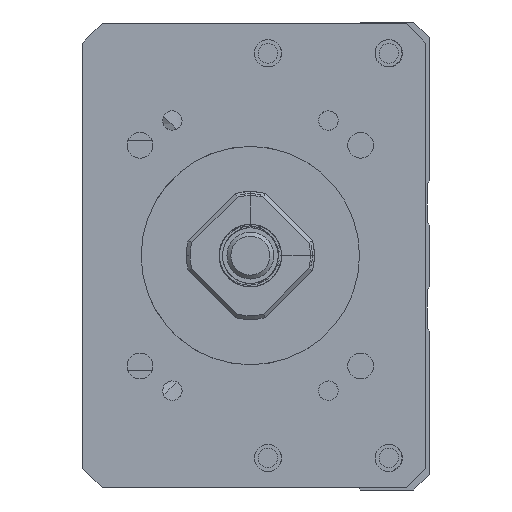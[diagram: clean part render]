
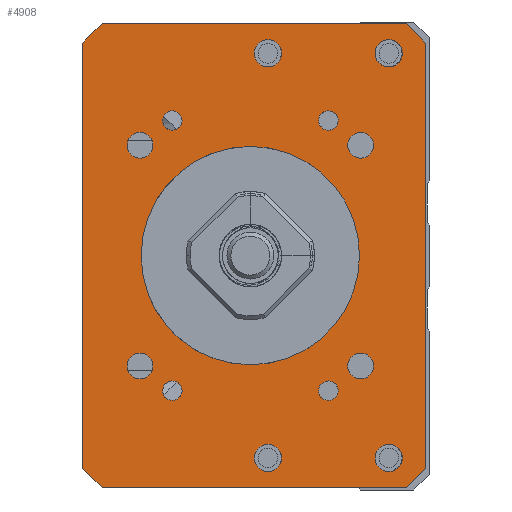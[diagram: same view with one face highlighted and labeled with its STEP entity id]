
A CAD part, left-side view. The second image highlights one B-rep face of the part: STEP entity #4908.
In plain terms, the highlighted planar face has unit normal (-1, 0, 0).
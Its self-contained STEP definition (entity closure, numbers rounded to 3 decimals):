
#3601=FACE_BOUND('',#6230,.T.);
#3602=FACE_BOUND('',#6231,.T.);
#3603=FACE_BOUND('',#6232,.T.);
#3604=FACE_BOUND('',#6233,.T.);
#3605=FACE_BOUND('',#6234,.T.);
#3606=FACE_BOUND('',#6235,.T.);
#3607=FACE_BOUND('',#6236,.T.);
#3608=FACE_BOUND('',#6237,.T.);
#3609=FACE_BOUND('',#6238,.T.);
#3610=FACE_BOUND('',#6239,.T.);
#3611=FACE_BOUND('',#6240,.T.);
#3612=FACE_BOUND('',#6241,.T.);
#3613=FACE_BOUND('',#6242,.T.);
#3614=FACE_BOUND('',#6243,.T.);
#4060=CIRCLE('',#14267,14.);
#4069=CIRCLE('',#14278,1.65);
#4070=CIRCLE('',#14279,1.65);
#4071=CIRCLE('',#14280,1.65);
#4072=CIRCLE('',#14281,1.65);
#4073=CIRCLE('',#14282,1.25);
#4074=CIRCLE('',#14283,1.75);
#4075=CIRCLE('',#14284,1.25);
#4076=CIRCLE('',#14285,1.75);
#4077=CIRCLE('',#14286,1.25);
#4078=CIRCLE('',#14287,1.75);
#4079=CIRCLE('',#14288,1.75);
#4080=CIRCLE('',#14289,1.25);
#4396=PLANE('',#14290);
#4908=ADVANCED_FACE('',(#3601,#3602,#3603,#3604,#3605,#3606,#3607,#3608,
#3609,#3610,#3611,#3612,#3613,#3614),#4396,.F.);
#6230=EDGE_LOOP('',(#7692));
#6231=EDGE_LOOP('',(#7693));
#6232=EDGE_LOOP('',(#7694));
#6233=EDGE_LOOP('',(#7695));
#6234=EDGE_LOOP('',(#7696));
#6235=EDGE_LOOP('',(#7697));
#6236=EDGE_LOOP('',(#7698));
#6237=EDGE_LOOP('',(#7699));
#6238=EDGE_LOOP('',(#7700));
#6239=EDGE_LOOP('',(#7701,#7702,#7703,#7704,#7705,#7706,#7707,#7708));
#6240=EDGE_LOOP('',(#7709));
#6241=EDGE_LOOP('',(#7710));
#6242=EDGE_LOOP('',(#7711));
#6243=EDGE_LOOP('',(#7712));
#7692=ORIENTED_EDGE('',*,*,#11242,.F.);
#7693=ORIENTED_EDGE('',*,*,#11243,.F.);
#7694=ORIENTED_EDGE('',*,*,#11244,.F.);
#7695=ORIENTED_EDGE('',*,*,#11245,.F.);
#7696=ORIENTED_EDGE('',*,*,#11246,.F.);
#7697=ORIENTED_EDGE('',*,*,#11247,.T.);
#7698=ORIENTED_EDGE('',*,*,#11248,.F.);
#7699=ORIENTED_EDGE('',*,*,#11249,.F.);
#7700=ORIENTED_EDGE('',*,*,#11250,.F.);
#7701=ORIENTED_EDGE('',*,*,#11239,.T.);
#7702=ORIENTED_EDGE('',*,*,#11251,.T.);
#7703=ORIENTED_EDGE('',*,*,#11252,.F.);
#7704=ORIENTED_EDGE('',*,*,#11253,.T.);
#7705=ORIENTED_EDGE('',*,*,#11254,.F.);
#7706=ORIENTED_EDGE('',*,*,#11255,.T.);
#7707=ORIENTED_EDGE('',*,*,#11256,.T.);
#7708=ORIENTED_EDGE('',*,*,#11257,.T.);
#7709=ORIENTED_EDGE('',*,*,#11258,.F.);
#7710=ORIENTED_EDGE('',*,*,#11259,.F.);
#7711=ORIENTED_EDGE('',*,*,#11260,.F.);
#7712=ORIENTED_EDGE('',*,*,#11219,.F.);
#10136=VERTEX_POINT('',#18745);
#10156=VERTEX_POINT('',#18805);
#10157=VERTEX_POINT('',#18807);
#10159=VERTEX_POINT('',#18813);
#10160=VERTEX_POINT('',#18815);
#10161=VERTEX_POINT('',#18817);
#10162=VERTEX_POINT('',#18819);
#10163=VERTEX_POINT('',#18821);
#10164=VERTEX_POINT('',#18823);
#10165=VERTEX_POINT('',#18825);
#10166=VERTEX_POINT('',#18827);
#10167=VERTEX_POINT('',#18829);
#10168=VERTEX_POINT('',#18831);
#10169=VERTEX_POINT('',#18833);
#10170=VERTEX_POINT('',#18835);
#10171=VERTEX_POINT('',#18837);
#10172=VERTEX_POINT('',#18839);
#10173=VERTEX_POINT('',#18841);
#10174=VERTEX_POINT('',#18844);
#10175=VERTEX_POINT('',#18846);
#10176=VERTEX_POINT('',#18848);
#11219=EDGE_CURVE('',#10136,#10136,#4060,.T.);
#11239=EDGE_CURVE('',#10157,#10156,#12490,.T.);
#11242=EDGE_CURVE('',#10159,#10159,#4069,.T.);
#11243=EDGE_CURVE('',#10160,#10160,#4070,.T.);
#11244=EDGE_CURVE('',#10161,#10161,#4071,.T.);
#11245=EDGE_CURVE('',#10162,#10162,#4072,.T.);
#11246=EDGE_CURVE('',#10163,#10163,#4073,.T.);
#11247=EDGE_CURVE('',#10164,#10164,#4074,.T.);
#11248=EDGE_CURVE('',#10165,#10165,#4075,.T.);
#11249=EDGE_CURVE('',#10166,#10166,#4076,.T.);
#11250=EDGE_CURVE('',#10167,#10167,#4077,.T.);
#11251=EDGE_CURVE('',#10156,#10168,#12492,.T.);
#11252=EDGE_CURVE('',#10169,#10168,#12493,.T.);
#11253=EDGE_CURVE('',#10169,#10170,#12494,.T.);
#11254=EDGE_CURVE('',#10171,#10170,#12495,.T.);
#11255=EDGE_CURVE('',#10171,#10172,#12496,.T.);
#11256=EDGE_CURVE('',#10172,#10173,#12497,.T.);
#11257=EDGE_CURVE('',#10173,#10157,#12498,.T.);
#11258=EDGE_CURVE('',#10174,#10174,#4078,.T.);
#11259=EDGE_CURVE('',#10175,#10175,#4079,.T.);
#11260=EDGE_CURVE('',#10176,#10176,#4080,.T.);
#12490=LINE('',#18806,#13311);
#12492=LINE('',#18830,#13313);
#12493=LINE('',#18832,#13314);
#12494=LINE('',#18834,#13315);
#12495=LINE('',#18836,#13316);
#12496=LINE('',#18838,#13317);
#12497=LINE('',#18840,#13318);
#12498=LINE('',#18842,#13319);
#13311=VECTOR('',#15722,1.);
#13313=VECTOR('',#15746,1.);
#13314=VECTOR('',#15747,1.);
#13315=VECTOR('',#15748,1.);
#13316=VECTOR('',#15749,1.);
#13317=VECTOR('',#15750,1.);
#13318=VECTOR('',#15751,1.);
#13319=VECTOR('',#15752,1.);
#14267=AXIS2_PLACEMENT_3D('',#18744,#15696,#15697);
#14278=AXIS2_PLACEMENT_3D('',#18812,#15728,#15729);
#14279=AXIS2_PLACEMENT_3D('',#18814,#15730,#15731);
#14280=AXIS2_PLACEMENT_3D('',#18816,#15732,#15733);
#14281=AXIS2_PLACEMENT_3D('',#18818,#15734,#15735);
#14282=AXIS2_PLACEMENT_3D('',#18820,#15736,#15737);
#14283=AXIS2_PLACEMENT_3D('',#18822,#15738,#15739);
#14284=AXIS2_PLACEMENT_3D('',#18824,#15740,#15741);
#14285=AXIS2_PLACEMENT_3D('',#18826,#15742,#15743);
#14286=AXIS2_PLACEMENT_3D('',#18828,#15744,#15745);
#14287=AXIS2_PLACEMENT_3D('',#18843,#15753,#15754);
#14288=AXIS2_PLACEMENT_3D('',#18845,#15755,#15756);
#14289=AXIS2_PLACEMENT_3D('',#18847,#15757,#15758);
#14290=AXIS2_PLACEMENT_3D('',#18849,#15759,#15760);
#15696=DIRECTION('',(-1.,0.,0.));
#15697=DIRECTION('',(0.,1.,0.));
#15722=DIRECTION('',(0.,0.,-1.));
#15728=DIRECTION('',(-1.,0.,0.));
#15729=DIRECTION('',(0.,0.,1.));
#15730=DIRECTION('',(-1.,0.,0.));
#15731=DIRECTION('',(0.,0.,1.));
#15732=DIRECTION('',(-1.,0.,0.));
#15733=DIRECTION('',(0.,0.,1.));
#15734=DIRECTION('',(-1.,0.,0.));
#15735=DIRECTION('',(0.,0.,1.));
#15736=DIRECTION('',(-1.,0.,0.));
#15737=DIRECTION('',(0.,1.,0.));
#15738=DIRECTION('',(1.,0.,0.));
#15739=DIRECTION('',(0.,0.,1.));
#15740=DIRECTION('',(-1.,0.,0.));
#15741=DIRECTION('',(0.,1.,0.));
#15742=DIRECTION('',(-1.,0.,0.));
#15743=DIRECTION('',(0.,0.,1.));
#15744=DIRECTION('',(-1.,0.,0.));
#15745=DIRECTION('',(0.,1.,0.));
#15746=DIRECTION('',(0.,-0.707,-0.707));
#15747=DIRECTION('',(0.,1.,0.));
#15748=DIRECTION('',(0.,-0.707,0.707));
#15749=DIRECTION('',(0.,0.,-1.));
#15750=DIRECTION('',(0.,0.707,0.707));
#15751=DIRECTION('',(0.,1.,0.));
#15752=DIRECTION('',(0.,0.707,-0.707));
#15753=DIRECTION('',(-1.,0.,0.));
#15754=DIRECTION('',(0.,0.,1.));
#15755=DIRECTION('',(-1.,0.,0.));
#15756=DIRECTION('',(0.,0.,1.));
#15757=DIRECTION('',(-1.,0.,0.));
#15758=DIRECTION('',(0.,1.,0.));
#15759=DIRECTION('',(1.,0.,0.));
#15760=DIRECTION('',(0.,1.,0.));
#18744=CARTESIAN_POINT('',(-211.,0.,-100.));
#18745=CARTESIAN_POINT('',(-211.,14.,-100.));
#18805=CARTESIAN_POINT('',(-211.,21.499,-127.25));
#18806=CARTESIAN_POINT('',(-211.,21.499,-70.25));
#18807=CARTESIAN_POINT('',(-211.,21.499,-72.75));
#18812=CARTESIAN_POINT('',(-211.,14.142,-85.858));
#18813=CARTESIAN_POINT('',(-211.,14.142,-84.208));
#18814=CARTESIAN_POINT('',(-211.,-14.142,-85.858));
#18815=CARTESIAN_POINT('',(-211.,-14.142,-84.208));
#18816=CARTESIAN_POINT('',(-211.,14.142,-114.142));
#18817=CARTESIAN_POINT('',(-211.,14.142,-112.492));
#18818=CARTESIAN_POINT('',(-211.,-14.142,-114.142));
#18819=CARTESIAN_POINT('',(-211.,-14.142,-112.492));
#18820=CARTESIAN_POINT('',(-211.,-10.,-117.321));
#18821=CARTESIAN_POINT('',(-211.,-8.75,-117.321));
#18822=CARTESIAN_POINT('',(-211.,-2.25,-125.936));
#18823=CARTESIAN_POINT('',(-211.,-2.25,-124.186));
#18824=CARTESIAN_POINT('',(-211.,10.,-82.679));
#18825=CARTESIAN_POINT('',(-211.,11.25,-82.679));
#18826=CARTESIAN_POINT('',(-211.,-2.25,-74.064));
#18827=CARTESIAN_POINT('',(-211.,-2.25,-72.314));
#18828=CARTESIAN_POINT('',(-211.,10.,-117.321));
#18829=CARTESIAN_POINT('',(-211.,11.25,-117.321));
#18830=CARTESIAN_POINT('',(-211.,18.999,-129.75));
#18831=CARTESIAN_POINT('',(-211.,18.999,-129.75));
#18832=CARTESIAN_POINT('',(-211.,-22.501,-129.75));
#18833=CARTESIAN_POINT('',(-211.,-20.001,-129.75));
#18834=CARTESIAN_POINT('',(-211.,-22.501,-127.25));
#18835=CARTESIAN_POINT('',(-211.,-22.501,-127.25));
#18836=CARTESIAN_POINT('',(-211.,-22.501,-70.25));
#18837=CARTESIAN_POINT('',(-211.,-22.501,-72.75));
#18838=CARTESIAN_POINT('',(-211.,-22.501,-72.75));
#18839=CARTESIAN_POINT('',(-211.,-20.001,-70.25));
#18840=CARTESIAN_POINT('',(-211.,-22.501,-70.25));
#18841=CARTESIAN_POINT('',(-211.,18.999,-70.25));
#18842=CARTESIAN_POINT('',(-211.,18.999,-70.25));
#18843=CARTESIAN_POINT('',(-211.,-17.75,-74.064));
#18844=CARTESIAN_POINT('',(-211.,-17.75,-72.314));
#18845=CARTESIAN_POINT('',(-211.,-17.75,-125.936));
#18846=CARTESIAN_POINT('',(-211.,-17.75,-124.186));
#18847=CARTESIAN_POINT('',(-211.,-10.,-82.679));
#18848=CARTESIAN_POINT('',(-211.,-8.75,-82.679));
#18849=CARTESIAN_POINT('',(-211.,-22.501,-70.25));
